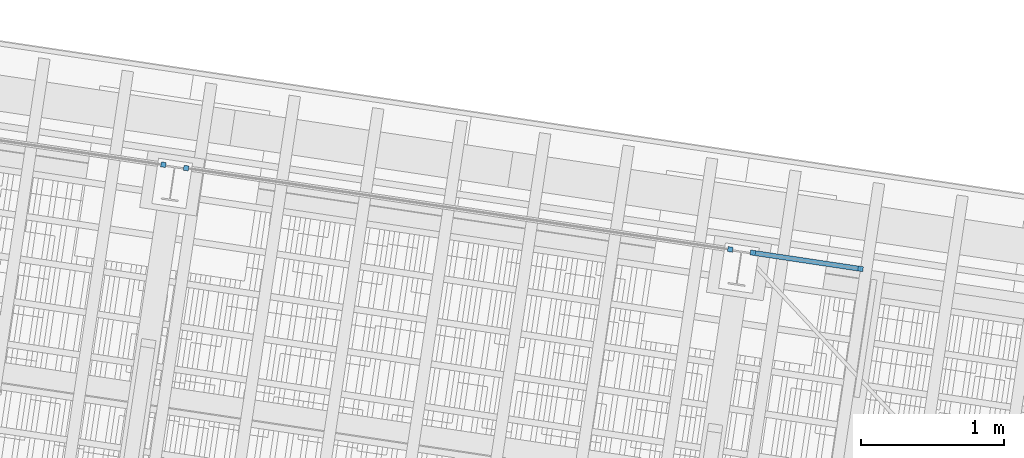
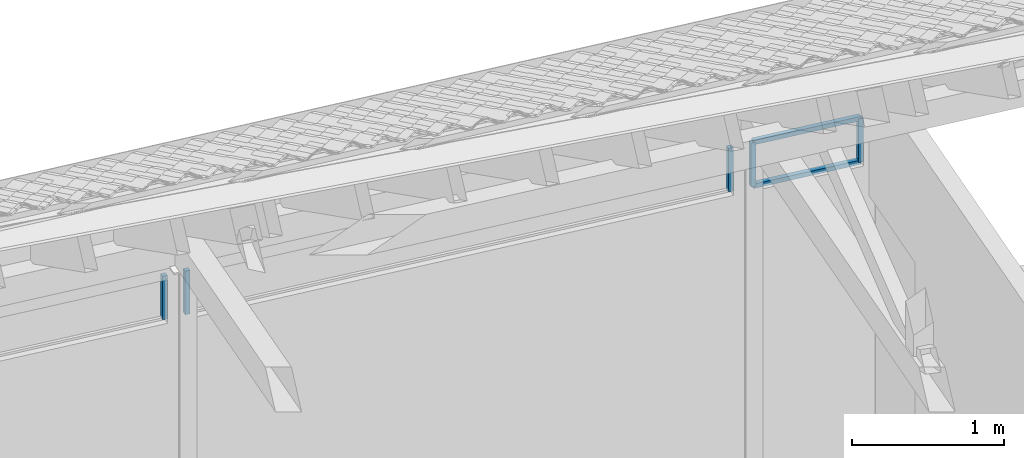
# One storey, part 116 of 128: 7 members.
"""IFC4 building model written with IfcOpenShell, lengths in metres."""

from ifc_helpers import new_model, si_unit, direction, frame, origin_with_axes, place, context, subcontext, project, spatial, rectangle, extrude, material, material_profile, profile_set, profile_usage, type_object, element, save


model = new_model("IFC4")

# Units and contexts
model_context = context("Model", 3, precision=1e-05, world=origin_with_axes(), true_north=direction((0.0, 1.0)))
body_context = subcontext(model_context, "Body", "Model", "MODEL_VIEW")
ifc_project = project(units=[si_unit("VOLUMEUNIT", "CUBIC_METRE"), si_unit("LENGTHUNIT", "METRE"), si_unit("AREAUNIT", "SQUARE_METRE")], contexts=[model_context])

# Site, building, storey
site_placement = place(None, origin_with_axes())
site = spatial("IfcSite", under=ifc_project, at=site_placement, Name="Lares · Rua das Mercês · artigo 4771")
building_placement = place(site_placement, frame((15.0, 9.7, 13.9), z_axis=(0.0, 0.0, 1.0), x_axis=(0.989015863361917, -0.147809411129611, 0.0)))
building = spatial("IfcBuilding", under=site, at=building_placement, Name="Casa Sobreposta")
storey_placement = place(building_placement, origin_with_axes())
storey = spatial("IfcBuildingStorey", under=building, at=storey_placement, Name="00 · Habitação e estacionamento", Elevation=13.9)

# Members
ifc_material = material(Name="Aço pintado / Stahl lackiert", Category="steel")
ifc_material_profile = material_profile(ifc_material, rectangle(XDim=0.035, YDim=0.035))
ifc_profile_set = profile_set([ifc_material_profile], Name="R0.035")
ifc_profile_usage_1 = profile_usage(ifc_profile_set)
member_type = type_object("IfcMemberType", Name="R0.035 / steel", PredefinedType="NOTDEFINED", material=ifc_profile_set)
member_1_placement = place(storey_placement, frame((19.92, 6.4, 2.35), z_axis=(0.0, 0.0, 1.0), x_axis=(1.0, 0.0, 0.0)))
element("IfcMember", 1, at=member_1_placement, inside=storey, type_object=member_type, material=ifc_profile_usage_1, Name="Rasgo norte 5 · montante", context=body_context, shape_type="SweptSolid", body=[
    extrude(rectangle(XDim=0.035, YDim=0.035), origin_with_axes(), (0.0, 0.0, 1.0), 0.35),
])
ifc_profile_usage_2 = profile_usage(ifc_profile_set)
member_2_placement = place(storey_placement, frame((20.08, 6.4, 2.35), z_axis=(0.0, 0.0, 1.0), x_axis=(1.0, 0.0, 0.0)))
element("IfcMember", 2, at=member_2_placement, inside=storey, type_object=member_type, material=ifc_profile_usage_2, Name="Rasgo norte 6 · montante", context=body_context, shape_type="SweptSolid", body=[
    extrude(rectangle(XDim=0.035, YDim=0.035), origin_with_axes(), (0.0, 0.0, 1.0), 0.35),
])
ifc_profile_usage_3 = profile_usage(ifc_profile_set)
member_3_placement = place(storey_placement, frame((23.92, 6.4, 2.35), z_axis=(0.0, 0.0, 1.0), x_axis=(1.0, 0.0, 0.0)))
element("IfcMember", 3, at=member_3_placement, inside=storey, type_object=member_type, material=ifc_profile_usage_3, Name="Rasgo norte 6 · montante", context=body_context, shape_type="SweptSolid", body=[
    extrude(rectangle(XDim=0.035, YDim=0.035), origin_with_axes(), (0.0, 0.0, 1.0), 0.35),
])
ifc_profile_usage_4 = profile_usage(ifc_profile_set)
member_4_placement = place(storey_placement, frame((24.08, 6.4, 2.35), z_axis=(0.0, 0.0, 1.0), x_axis=(1.0, 0.0, 0.0)))
element("IfcMember", 4, at=member_4_placement, inside=storey, type_object=member_type, material=ifc_profile_usage_4, Name="Rasgo norte 7 · montante", context=body_context, shape_type="SweptSolid", body=[
    extrude(rectangle(XDim=0.035, YDim=0.035), origin_with_axes(), (0.0, 0.0, 1.0), 0.35),
])
ifc_profile_usage_5 = profile_usage(ifc_profile_set)
member_5_placement = place(storey_placement, frame((24.84, 6.4, 2.35), z_axis=(0.0, 0.0, 1.0), x_axis=(1.0, 0.0, 0.0)))
element("IfcMember", 5, at=member_5_placement, inside=storey, type_object=member_type, material=ifc_profile_usage_5, Name="Rasgo norte 7 · montante", context=body_context, shape_type="SweptSolid", body=[
    extrude(rectangle(XDim=0.035, YDim=0.035), origin_with_axes(), (0.0, 0.0, 1.0), 0.35),
])
ifc_profile_usage_6 = profile_usage(ifc_profile_set)
member_6_placement = place(storey_placement, frame((24.08, 6.4, 2.35), z_axis=(1.0, 0.0, 0.0), x_axis=(0.0, -1.0, 0.0)))
element("IfcMember", 6, at=member_6_placement, inside=storey, type_object=member_type, material=ifc_profile_usage_6, Name="Rasgo norte 7 · travessa", context=body_context, shape_type="SweptSolid", body=[
    extrude(rectangle(XDim=0.035, YDim=0.035), origin_with_axes(), (0.0, 0.0, 1.0), 0.760000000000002),
])
ifc_profile_usage_7 = profile_usage(ifc_profile_set)
member_7_placement = place(storey_placement, frame((24.08, 6.4, 2.7), z_axis=(1.0, 0.0, 0.0), x_axis=(0.0, -1.0, 0.0)))
element("IfcMember", 7, at=member_7_placement, inside=storey, type_object=member_type, material=ifc_profile_usage_7, Name="Rasgo norte 7 · travessa", context=body_context, shape_type="SweptSolid", body=[
    extrude(rectangle(XDim=0.035, YDim=0.035), origin_with_axes(), (0.0, 0.0, 1.0), 0.760000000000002),
])

save(model, "model.ifc")
